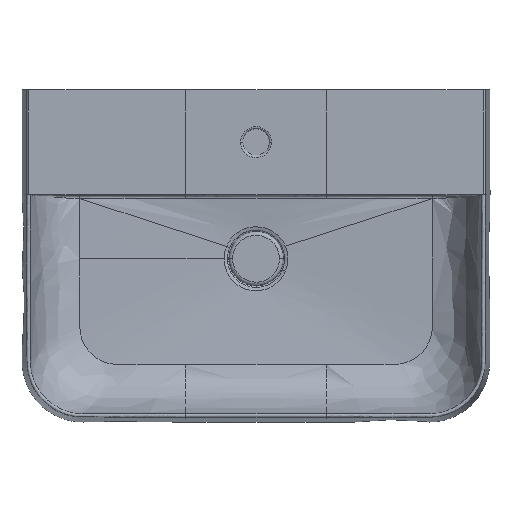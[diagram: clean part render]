
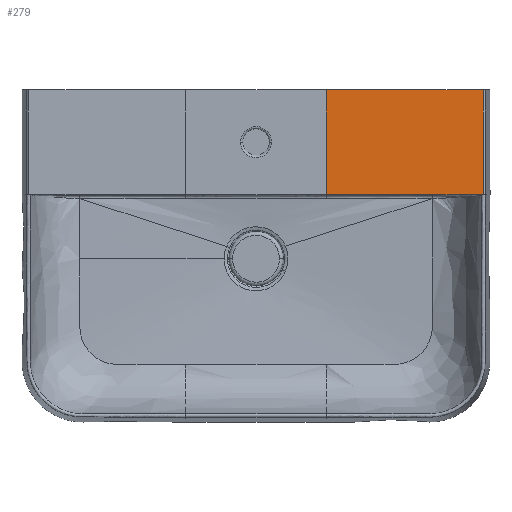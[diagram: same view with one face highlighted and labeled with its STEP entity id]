
A CAD part, top view. The second image highlights one B-rep face of the part: STEP entity #279.
In plain terms, the highlighted planar face has unit normal (0, 0, 1).
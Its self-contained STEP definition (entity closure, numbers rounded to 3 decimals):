
#70=B_SPLINE_CURVE_WITH_KNOTS('',1,(#36246,#36247),.UNSPECIFIED.,.F.,.F.,
(2,2),(228.41,434.155),.UNSPECIFIED.);
#112=B_SPLINE_CURVE_WITH_KNOTS('',1,(#37422,#37423),.UNSPECIFIED.,.F.,.F.,
(2,2),(-139.038,0.),.UNSPECIFIED.);
#117=B_SPLINE_CURVE_WITH_KNOTS('',1,(#37555,#37556),.UNSPECIFIED.,.F.,.F.,
(2,2),(-174.814,-35.776),.UNSPECIFIED.);
#118=B_SPLINE_CURVE_WITH_KNOTS('',1,(#37557,#37558),.UNSPECIFIED.,.F.,.F.,
(2,2),(-434.155,-228.41),.UNSPECIFIED.);
#279=ADVANCED_FACE('',(#367),#1285,.T.);
#367=FACE_OUTER_BOUND('',#455,.T.);
#455=EDGE_LOOP('',(#756,#757,#758,#759));
#756=ORIENTED_EDGE('',*,*,#978,.F.);
#757=ORIENTED_EDGE('',*,*,#1036,.F.);
#758=ORIENTED_EDGE('',*,*,#1042,.F.);
#759=ORIENTED_EDGE('',*,*,#1041,.F.);
#978=EDGE_CURVE('',#1214,#1217,#70,.T.);
#1036=EDGE_CURVE('',#1249,#1214,#112,.T.);
#1041=EDGE_CURVE('',#1217,#1251,#117,.T.);
#1042=EDGE_CURVE('',#1251,#1249,#118,.T.);
#1214=VERTEX_POINT('',#34513);
#1217=VERTEX_POINT('',#34516);
#1249=VERTEX_POINT('',#34548);
#1251=VERTEX_POINT('',#34550);
#1285=PLANE('',#1350);
#1350=AXIS2_PLACEMENT_3D('',#23568,#1367,$);
#1367=DIRECTION('',(0.,0.,1.));
#23568=CARTESIAN_POINT('',(-126.874,71.174,284.789));
#34513=CARTESIAN_POINT('',(289.393,71.174,284.789));
#34516=CARTESIAN_POINT('',(81.448,71.174,284.789));
#34548=CARTESIAN_POINT('',(289.393,210.212,284.789));
#34550=CARTESIAN_POINT('',(81.448,210.212,284.789));
#36246=CARTESIAN_POINT('',(289.393,71.174,284.789));
#36247=CARTESIAN_POINT('',(81.448,71.174,284.789));
#37422=CARTESIAN_POINT('',(289.393,210.212,284.789));
#37423=CARTESIAN_POINT('',(289.393,71.174,284.789));
#37555=CARTESIAN_POINT('',(81.448,71.174,284.789));
#37556=CARTESIAN_POINT('',(81.448,210.212,284.789));
#37557=CARTESIAN_POINT('',(81.448,210.212,284.789));
#37558=CARTESIAN_POINT('',(289.393,210.212,284.789));
